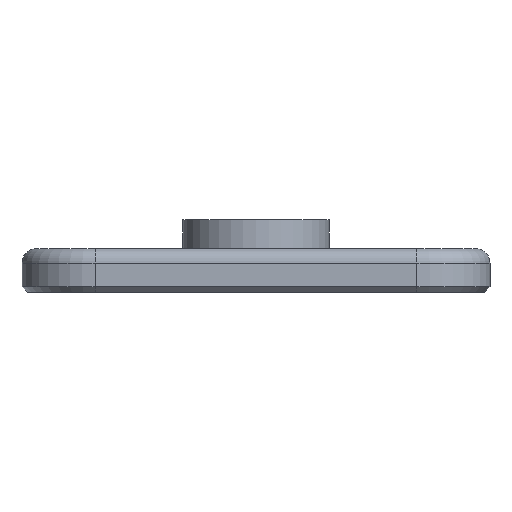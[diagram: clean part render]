
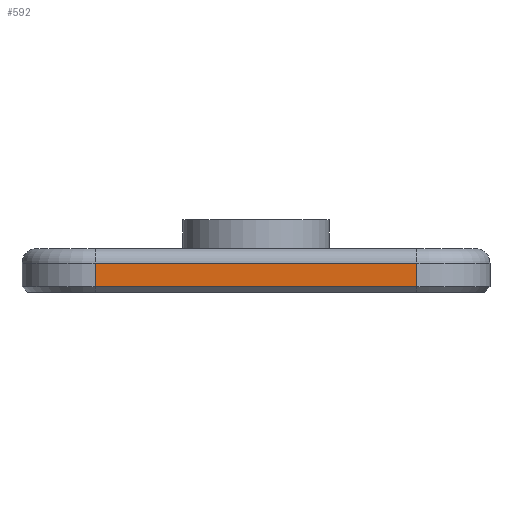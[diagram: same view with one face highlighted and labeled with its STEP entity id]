
A CAD part, front view. The second image highlights one B-rep face of the part: STEP entity #592.
In plain terms, the highlighted planar face has unit normal (0, -1, 0).
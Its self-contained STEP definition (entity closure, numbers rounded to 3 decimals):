
#62 = CYLINDRICAL_SURFACE('',#63,2.5);
#63 = AXIS2_PLACEMENT_3D('',#64,#65,#66);
#64 = CARTESIAN_POINT('',(-5.5,-17.5,0.));
#65 = DIRECTION('',(-0.,-0.,-1.));
#66 = DIRECTION('',(1.,0.,0.));
#161 = VERTEX_POINT('',#162);
#162 = CARTESIAN_POINT('',(-5.5,-20.,1.));
#189 = EDGE_CURVE('',#190,#161,#192,.T.);
#190 = VERTEX_POINT('',#191);
#191 = CARTESIAN_POINT('',(-5.5,-20.,0.2));
#192 = SURFACE_CURVE('',#193,(#197,#204),.PCURVE_S1.);
#193 = LINE('',#194,#195);
#194 = CARTESIAN_POINT('',(-5.5,-20.,0.));
#195 = VECTOR('',#196,1.);
#196 = DIRECTION('',(0.,0.,1.));
#197 = PCURVE('',#62,#198);
#198 = DEFINITIONAL_REPRESENTATION('',(#199),#203);
#199 = LINE('',#200,#201);
#200 = CARTESIAN_POINT('',(-4.712,0.));
#201 = VECTOR('',#202,1.);
#202 = DIRECTION('',(-0.,-1.));
#203 = ( GEOMETRIC_REPRESENTATION_CONTEXT(2) 
PARAMETRIC_REPRESENTATION_CONTEXT() REPRESENTATION_CONTEXT('2D SPACE',''
  ) );
#204 = PCURVE('',#205,#210);
#205 = PLANE('',#206);
#206 = AXIS2_PLACEMENT_3D('',#207,#208,#209);
#207 = CARTESIAN_POINT('',(-5.5,-20.,0.));
#208 = DIRECTION('',(0.,1.,0.));
#209 = DIRECTION('',(1.,0.,0.));
#210 = DEFINITIONAL_REPRESENTATION('',(#211),#215);
#211 = LINE('',#212,#213);
#212 = CARTESIAN_POINT('',(0.,0.));
#213 = VECTOR('',#214,1.);
#214 = DIRECTION('',(0.,-1.));
#215 = ( GEOMETRIC_REPRESENTATION_CONTEXT(2) 
PARAMETRIC_REPRESENTATION_CONTEXT() REPRESENTATION_CONTEXT('2D SPACE',''
  ) );
#496 = PLANE('',#497);
#497 = AXIS2_PLACEMENT_3D('',#498,#499,#500);
#498 = CARTESIAN_POINT('',(5.5,-19.9,0.1));
#499 = DIRECTION('',(0.,-0.707,-0.707)
  );
#500 = DIRECTION('',(-1.,0.,0.));
#554 = CYLINDRICAL_SURFACE('',#555,0.5);
#555 = AXIS2_PLACEMENT_3D('',#556,#557,#558);
#556 = CARTESIAN_POINT('',(5.5,-19.5,1.));
#557 = DIRECTION('',(-1.,-0.,-0.));
#558 = DIRECTION('',(0.,-1.,0.));
#592 = ADVANCED_FACE('',(#593),#205,.F.);
#593 = FACE_BOUND('',#594,.F.);
#594 = EDGE_LOOP('',(#595,#596,#619,#647));
#595 = ORIENTED_EDGE('',*,*,#189,.T.);
#596 = ORIENTED_EDGE('',*,*,#597,.F.);
#597 = EDGE_CURVE('',#598,#161,#600,.T.);
#598 = VERTEX_POINT('',#599);
#599 = CARTESIAN_POINT('',(5.5,-20.,1.));
#600 = SURFACE_CURVE('',#601,(#605,#612),.PCURVE_S1.);
#601 = LINE('',#602,#603);
#602 = CARTESIAN_POINT('',(5.5,-20.,1.));
#603 = VECTOR('',#604,1.);
#604 = DIRECTION('',(-1.,-0.,-0.));
#605 = PCURVE('',#205,#606);
#606 = DEFINITIONAL_REPRESENTATION('',(#607),#611);
#607 = LINE('',#608,#609);
#608 = CARTESIAN_POINT('',(11.,-1.));
#609 = VECTOR('',#610,1.);
#610 = DIRECTION('',(-1.,0.));
#611 = ( GEOMETRIC_REPRESENTATION_CONTEXT(2) 
PARAMETRIC_REPRESENTATION_CONTEXT() REPRESENTATION_CONTEXT('2D SPACE',''
  ) );
#612 = PCURVE('',#554,#613);
#613 = DEFINITIONAL_REPRESENTATION('',(#614),#618);
#614 = LINE('',#615,#616);
#615 = CARTESIAN_POINT('',(0.,0.));
#616 = VECTOR('',#617,1.);
#617 = DIRECTION('',(0.,1.));
#618 = ( GEOMETRIC_REPRESENTATION_CONTEXT(2) 
PARAMETRIC_REPRESENTATION_CONTEXT() REPRESENTATION_CONTEXT('2D SPACE',''
  ) );
#619 = ORIENTED_EDGE('',*,*,#620,.F.);
#620 = EDGE_CURVE('',#621,#598,#623,.T.);
#621 = VERTEX_POINT('',#622);
#622 = CARTESIAN_POINT('',(5.5,-20.,0.2));
#623 = SURFACE_CURVE('',#624,(#628,#635),.PCURVE_S1.);
#624 = LINE('',#625,#626);
#625 = CARTESIAN_POINT('',(5.5,-20.,0.));
#626 = VECTOR('',#627,1.);
#627 = DIRECTION('',(0.,0.,1.));
#628 = PCURVE('',#205,#629);
#629 = DEFINITIONAL_REPRESENTATION('',(#630),#634);
#630 = LINE('',#631,#632);
#631 = CARTESIAN_POINT('',(11.,0.));
#632 = VECTOR('',#633,1.);
#633 = DIRECTION('',(0.,-1.));
#634 = ( GEOMETRIC_REPRESENTATION_CONTEXT(2) 
PARAMETRIC_REPRESENTATION_CONTEXT() REPRESENTATION_CONTEXT('2D SPACE',''
  ) );
#635 = PCURVE('',#636,#641);
#636 = CYLINDRICAL_SURFACE('',#637,2.5);
#637 = AXIS2_PLACEMENT_3D('',#638,#639,#640);
#638 = CARTESIAN_POINT('',(5.5,-17.5,0.));
#639 = DIRECTION('',(-0.,-0.,-1.));
#640 = DIRECTION('',(1.,0.,0.));
#641 = DEFINITIONAL_REPRESENTATION('',(#642),#646);
#642 = LINE('',#643,#644);
#643 = CARTESIAN_POINT('',(-4.712,0.));
#644 = VECTOR('',#645,1.);
#645 = DIRECTION('',(-0.,-1.));
#646 = ( GEOMETRIC_REPRESENTATION_CONTEXT(2) 
PARAMETRIC_REPRESENTATION_CONTEXT() REPRESENTATION_CONTEXT('2D SPACE',''
  ) );
#647 = ORIENTED_EDGE('',*,*,#648,.T.);
#648 = EDGE_CURVE('',#621,#190,#649,.T.);
#649 = SURFACE_CURVE('',#650,(#654,#661),.PCURVE_S1.);
#650 = LINE('',#651,#652);
#651 = CARTESIAN_POINT('',(5.5,-20.,0.2));
#652 = VECTOR('',#653,1.);
#653 = DIRECTION('',(-1.,-0.,-0.));
#654 = PCURVE('',#205,#655);
#655 = DEFINITIONAL_REPRESENTATION('',(#656),#660);
#656 = LINE('',#657,#658);
#657 = CARTESIAN_POINT('',(11.,-0.2));
#658 = VECTOR('',#659,1.);
#659 = DIRECTION('',(-1.,0.));
#660 = ( GEOMETRIC_REPRESENTATION_CONTEXT(2) 
PARAMETRIC_REPRESENTATION_CONTEXT() REPRESENTATION_CONTEXT('2D SPACE',''
  ) );
#661 = PCURVE('',#496,#662);
#662 = DEFINITIONAL_REPRESENTATION('',(#663),#667);
#663 = LINE('',#664,#665);
#664 = CARTESIAN_POINT('',(0.,-0.141));
#665 = VECTOR('',#666,1.);
#666 = DIRECTION('',(1.,0.));
#667 = ( GEOMETRIC_REPRESENTATION_CONTEXT(2) 
PARAMETRIC_REPRESENTATION_CONTEXT() REPRESENTATION_CONTEXT('2D SPACE',''
  ) );
